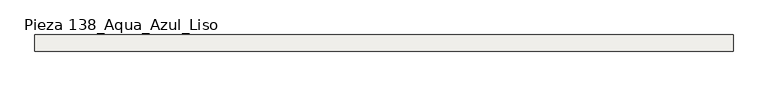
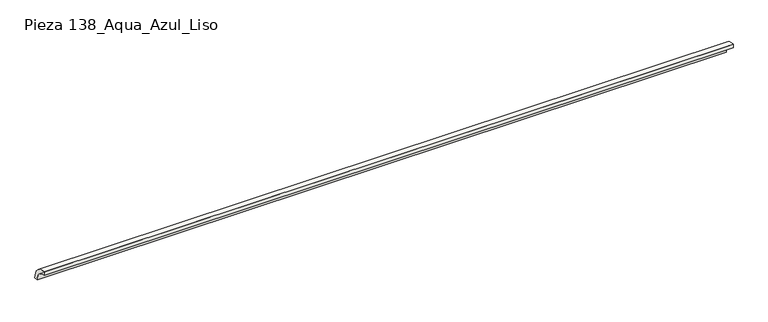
"""IFC4 building model written with IfcOpenShell, lengths in millimetres: slab geometry, ROSA GRES_138 : Pieza 138_Aqua_Azul_Liso."""

from ifc_helpers import new_model, si_unit, point, frame, frame_2d, origin, origin_2d, place, context, project, spatial, polyline, circle_curve, trimmed, segment, composite_curve, outline, extrude, source, transform, mapped, element, save


def pieza_138_aqua_azul_liso_3f46d53b(model_context):
    return source(origin(), model_context, "Body", "SweptSolid", [
        extrude(outline(composite_curve([segment(trimmed(circle_curve(origin_2d(), 40.0), [point((0.0, 40.0))], [point((40.0, 0.0))], False, "CARTESIAN"), True, "CONTINUOUS"), segment(polyline([(40.0, 0.0), (30.0265886, 0.0)]), True, "CONTINUOUS"), segment(trimmed(circle_curve(frame_2d((0.0044453, 0.0044453)), 30.0221435), [point((30.0265886, 0.0))], [point((0.0, 30.0265886))], True, "CARTESIAN"), True, "CONTINUOUS"), segment(polyline([(0.0, 30.0265886), (0.0, 40.0)]), True, "CONTINUOUS")], self_intersect=False)), frame((0.0, 0.0, 0.0), z_axis=(1.0, 0.0, 0.0), x_axis=(0.0, 1.0, 0.0)), (0.0, 0.0, 1.0), 1730.1),
    ])


if __name__ == "__main__":
    model = new_model("IFC4")
    model_context = context("Model", 3, world=origin())
    ifc_project = project(units=[si_unit("LENGTHUNIT", "METRE", prefix="MILLI")], contexts=[model_context])
    site = spatial("IfcSite", under=ifc_project)
    building = spatial("IfcBuilding", under=site)
    placement = place(None, origin())
    pieza_138_aqua_azul_liso_shape = pieza_138_aqua_azul_liso_3f46d53b(model_context)
    element("IfcSlab", 1, ObjectType="ROSA GRES_138 : Pieza 138_Aqua_Azul_Liso", at=placement, inside=building, context=model_context, shape_type="MappedRepresentation", body=[
        mapped(pieza_138_aqua_azul_liso_shape, transform((0.0, 0.0, 0.0), x_axis=(1.0, 0.0, 0.0), y_axis=(0.0, 1.0, 0.0), z_axis=(0.0, 0.0, 1.0))),
    ])
    save(model, "model.ifc")
